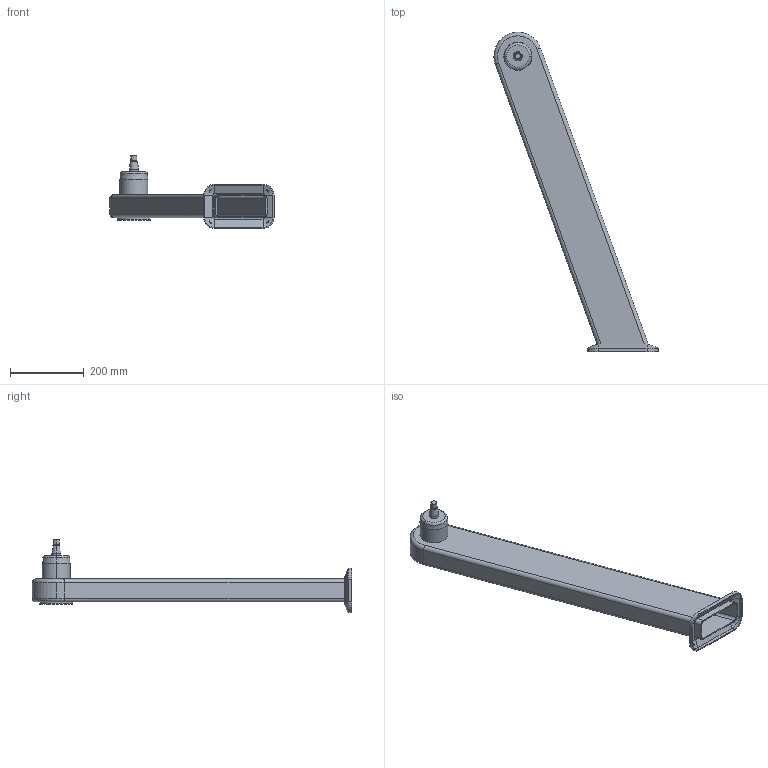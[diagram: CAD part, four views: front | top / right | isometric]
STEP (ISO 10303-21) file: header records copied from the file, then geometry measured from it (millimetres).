
FILE_DESCRIPTION (( 'STEP AP214' ), '1' );
FILE_NAME ('WP710_H800_-20.STEP', '2014-06-27T07:57:11', ( '' ), ( '' ), 'SwSTEP 2.0', 'SolidWorks 2014', '' );
FILE_SCHEMA (( 'AUTOMOTIVE_DESIGN' ));
Length unit declared in the file: millimetre
Products named in the file (1): WP710_H800_-20
Bounding box: 444.4 x 865 x 198 mm (x, y, z)
Volume: 1397854 mm3; surface area: 717051.8 mm2
Topology: 1 solids, 1 shells, 112 faces, 253 edges, 154 vertices
Faces by surface type: cylinder 44, plane 40, cone 20, torus 8
Entity records: 3234 total; most frequent: CARTESIAN_POINT 679, DIRECTION 553, ORIENTED_EDGE 506, EDGE_CURVE 253, AXIS2_PLACEMENT_3D 211, VERTEX_POINT 154, VECTOR 131, LINE 131
